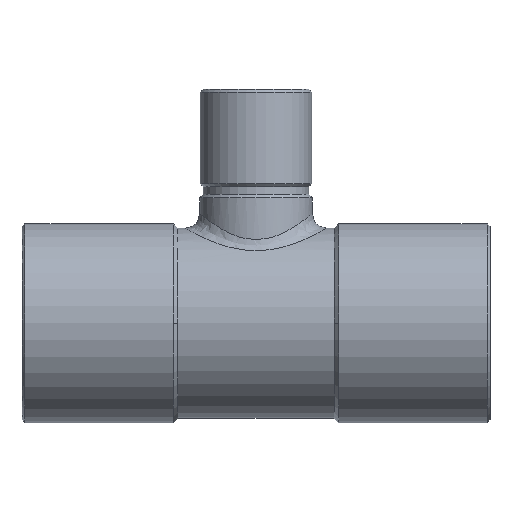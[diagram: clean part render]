
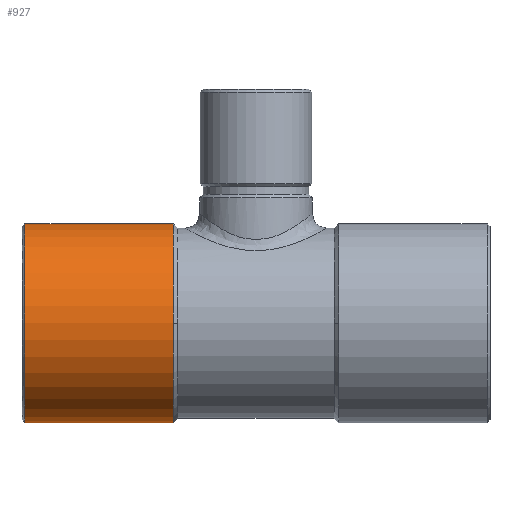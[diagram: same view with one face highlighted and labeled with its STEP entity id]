
A CAD part, top view. The second image highlights one B-rep face of the part: STEP entity #927.
In plain terms, the highlighted cylindrical face has radius 6.8 mm (diameter 13.6 mm), a partial arc.
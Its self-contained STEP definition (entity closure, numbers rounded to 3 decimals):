
#216=CARTESIAN_POINT('',(-5.65,0.,6.8));
#217=VERTEX_POINT('',#216);
#224=CARTESIAN_POINT('',(-5.65,-6.8,0.));
#225=VERTEX_POINT('',#224);
#226=CARTESIAN_POINT('',(-5.65,0.0,0.0));
#227=DIRECTION('',(1.0,0.0,0.0));
#228=DIRECTION('',(0.0,1.0,0.0));
#229=AXIS2_PLACEMENT_3D('',#226,#227,#228);
#230=CIRCLE('',#229,6.8);
#231=EDGE_CURVE('',#217,#225,#230,.T.);
#887=CARTESIAN_POINT('',(-10.825,0.0,0.0));
#888=DIRECTION('',(1.0,0.0,0.0));
#889=DIRECTION('',(0.0,1.0,0.0));
#890=AXIS2_PLACEMENT_3D('',#887,#888,#889);
#891=CYLINDRICAL_SURFACE('',#890,6.8);
#892=CARTESIAN_POINT('',(-15.8,6.8,0.));
#893=VERTEX_POINT('',#892);
#894=CARTESIAN_POINT('',(-5.65,6.8,0.0));
#895=VERTEX_POINT('',#894);
#896=CARTESIAN_POINT('',(-15.8,6.8,0.));
#897=DIRECTION('',(1.0,0.0,0.0));
#898=VECTOR('',#897,10.15);
#899=LINE('',#896,#898);
#900=EDGE_CURVE('',#893,#895,#899,.T.);
#901=ORIENTED_EDGE('',*,*,#900,.F.);
#902=CARTESIAN_POINT('',(-15.8,-6.8,0.));
#903=VERTEX_POINT('',#902);
#904=CARTESIAN_POINT('',(-15.8,0.0,0.0));
#905=DIRECTION('',(-1.0,0.0,0.0));
#906=DIRECTION('',(0.0,-1.0,0.0));
#907=AXIS2_PLACEMENT_3D('',#904,#905,#906);
#908=CIRCLE('',#907,6.8);
#909=EDGE_CURVE('',#903,#893,#908,.T.);
#910=ORIENTED_EDGE('',*,*,#909,.F.);
#911=CARTESIAN_POINT('',(-5.65,-6.8,0.));
#912=DIRECTION('',(-1.0,0.0,0.0));
#913=VECTOR('',#912,10.15);
#914=LINE('',#911,#913);
#915=EDGE_CURVE('',#225,#903,#914,.T.);
#916=ORIENTED_EDGE('',*,*,#915,.F.);
#917=ORIENTED_EDGE('',*,*,#231,.F.);
#918=CARTESIAN_POINT('',(-5.65,0.0,0.0));
#919=DIRECTION('',(1.0,0.0,0.0));
#920=DIRECTION('',(0.0,1.0,0.0));
#921=AXIS2_PLACEMENT_3D('',#918,#919,#920);
#922=CIRCLE('',#921,6.8);
#923=EDGE_CURVE('',#895,#217,#922,.T.);
#924=ORIENTED_EDGE('',*,*,#923,.F.);
#925=EDGE_LOOP('',(#901,#910,#916,#917,#924));
#926=FACE_OUTER_BOUND('',#925,.T.);
#927=ADVANCED_FACE('',(#926),#891,.T.);
